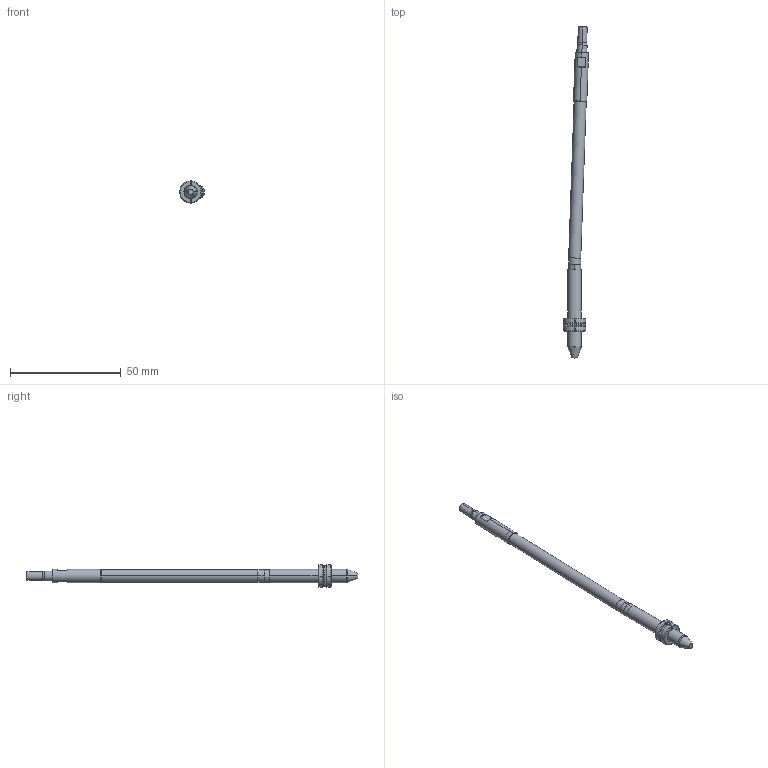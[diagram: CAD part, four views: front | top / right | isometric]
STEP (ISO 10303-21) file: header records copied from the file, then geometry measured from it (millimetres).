
FILE_DESCRIPTION (( 'STEP AP214' ), '1' );
FILE_NAME ('WP060060-EJE 2°.STEP', '2021-03-19T15:16:01', ( '' ), ( '' ), 'SwSTEP 2.0', 'SolidWorks 2019', '' );
FILE_SCHEMA (( 'AUTOMOTIVE_DESIGN' ));
Length unit declared in the file: millimetre
Products named in the file (6): WP060060-EJE 2°; WEB-001-9WP060030-1; WEB-006-9WP060030-6; WEB-008-JUNTA-JT7X1X9; WEB-002-9WP060030-2; WEB-007-9WP060060-F_WP060060-F-ON 2ø
Assembly tree (5 placements, depth 2):
  WP060060-EJE 2°
    WEB-001-9WP060030-1
    WEB-007-9WP060060-F_WP060060-F-ON 2ø
    WEB-002-9WP060030-2
    WEB-006-9WP060030-6
    WEB-008-JUNTA-JT7X1X9
Bounding box: 11.28 x 149.79 x 9.99 mm (x, y, z)
Volume: 3873.7 mm3; surface area: 3434.2 mm2
Topology: 6 solids, 6 shells, 112 faces, 262 edges, 164 vertices
Faces by surface type: cylinder 36, cone 28, plane 28, torus 20
Entity records: 3723 total; most frequent: CARTESIAN_POINT 714, DIRECTION 598, ORIENTED_EDGE 524, EDGE_CURVE 262, AXIS2_PLACEMENT_3D 256, VERTEX_POINT 164, CIRCLE 136, EDGE_LOOP 116
